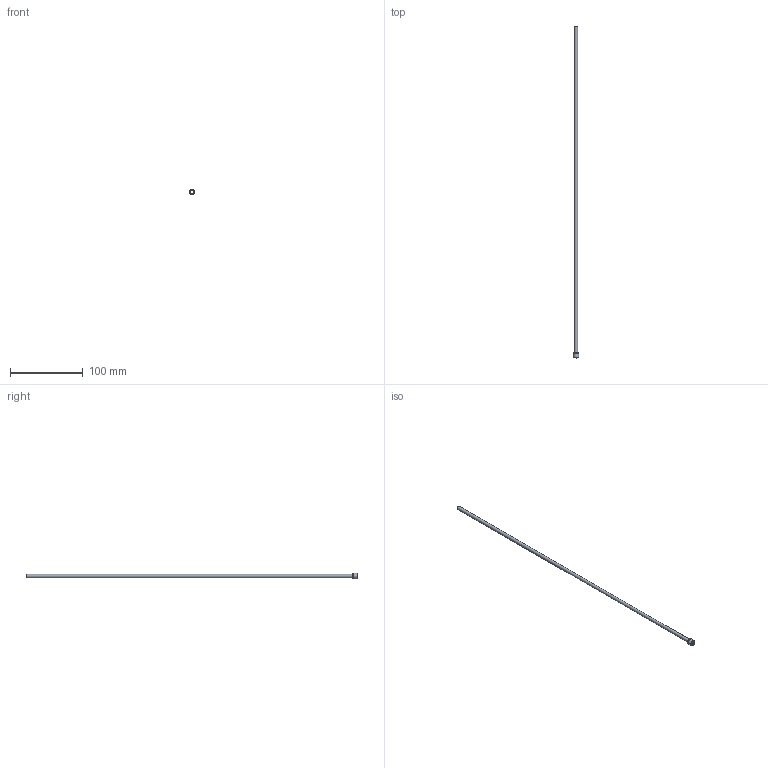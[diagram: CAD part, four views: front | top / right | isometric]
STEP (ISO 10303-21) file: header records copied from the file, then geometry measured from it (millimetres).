
FILE_DESCRIPTION(/* description */ (''),/* implementation_level */ '2;1');
FILE_NAME(/* name */ 'C:/Users/drich/Desktop/JHF187T-18 v1.step',/* time_stamp */ '2020-01-02T20:01:21-06:00',/* author */ (''),/* organization */ (''),/* preprocessor_version */ 'ST-DEVELOPER v18',/* originating_system */ 'Autodesk Translation Framework v8.12.0.6',/* authorisation */ '');
FILE_SCHEMA (('AUTOMOTIVE_DESIGN { 1 0 10303 214 3 1 1 }'));
Length unit declared in the file: inch
Products named in the file (1): JHF187T-18
Bounding box: 7.98 x 457.2 x 7.98 mm (x, y, z)
Volume: 1865.1 mm3; surface area: 13049 mm2
Topology: 1 solids, 1 shells, 10 faces, 24 edges, 18 vertices
Faces by surface type: cylinder 4, plane 4, cone 1, torus 1
Full cylindrical faces by diameter (mm): 4.242 x1, 4.75 x1, 7.846 x1, 7.976 x1
Entity records: 354 total; most frequent: DIRECTION 65, CARTESIAN_POINT 53, ORIENTED_EDGE 48, AXIS2_PLACEMENT_3D 30, EDGE_CURVE 24, CIRCLE 19, VERTEX_POINT 18, EDGE_LOOP 14
